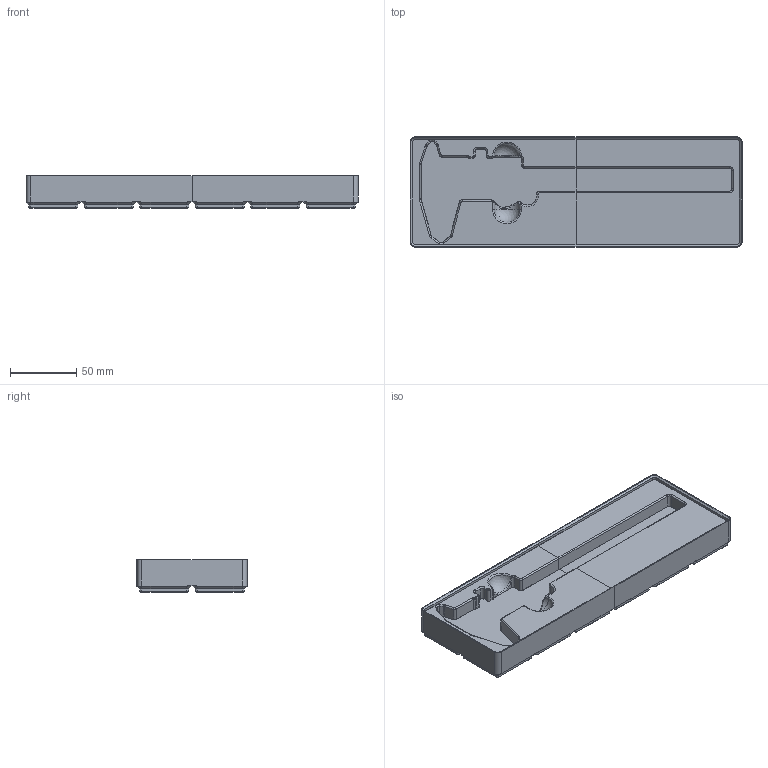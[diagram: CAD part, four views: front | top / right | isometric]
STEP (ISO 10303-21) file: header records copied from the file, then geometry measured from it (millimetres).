
FILE_DESCRIPTION(/* description */ (''),/* implementation_level */ '2;1');
FILE_NAME(/* name */ 'Gridfinity Generic Calipers Shadowbox.step',/* time_stamp */ '2025-09-02T14:56:18+02:00',/* author */ (''),/* organization */ (''),/* preprocessor_version */ 'ST-DEVELOPER v20.1',/* originating_system */ 'Autodesk Translation Framework v14.10.0.0',/* authorisation */ '');
FILE_SCHEMA (('AUTOMOTIVE_DESIGN { 1 0 10303 214 3 1 1 }'));
Length unit declared in the file: millimetre
Products named in the file (3): Calipers; Gridfinity bin 2x6x3; Inlay
Assembly tree (2 placements, depth 2):
  Calipers
    Gridfinity bin 2x6x3
    Inlay
Bounding box: 251.5 x 83.5 x 24.8 mm (x, y, z)
Volume: 359476.4 mm3; surface area: 85069.7 mm2
Topology: 4 solids, 4 shells, 637 faces, 1454 edges, 824 vertices
Faces by surface type: plane 306, cone 152, cylinder 129, bspline 25, torus 19, sphere 6
Entity records: 18071 total; most frequent: CARTESIAN_POINT 3732, DIRECTION 3079, ORIENTED_EDGE 2906, EDGE_CURVE 1453, AXIS2_PLACEMENT_3D 1068, LINE 943, VECTOR 943, VERTEX_POINT 824
